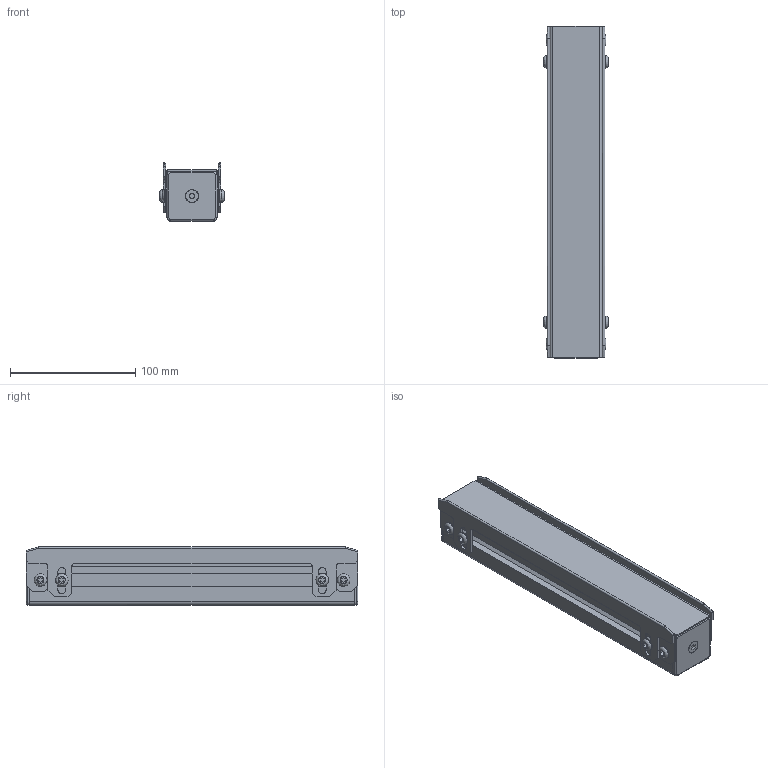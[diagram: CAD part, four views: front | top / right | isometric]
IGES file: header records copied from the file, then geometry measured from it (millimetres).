
Global section: file name: MGSS-FA-4040x265H; native system: unknown; preprocessor: unknown; author: unknown; organization: unknown; date: 20221215.125650; units: millimetre
Bounding box: 51.6 x 265 x 46.5 mm (x, y, z)
Volume: 210976.3 mm3; surface area: 183720.7 mm2
Topology: 16 solids, 16 shells, 352 faces, 936 edges, 618 vertices
Faces by surface type: bspline 352
